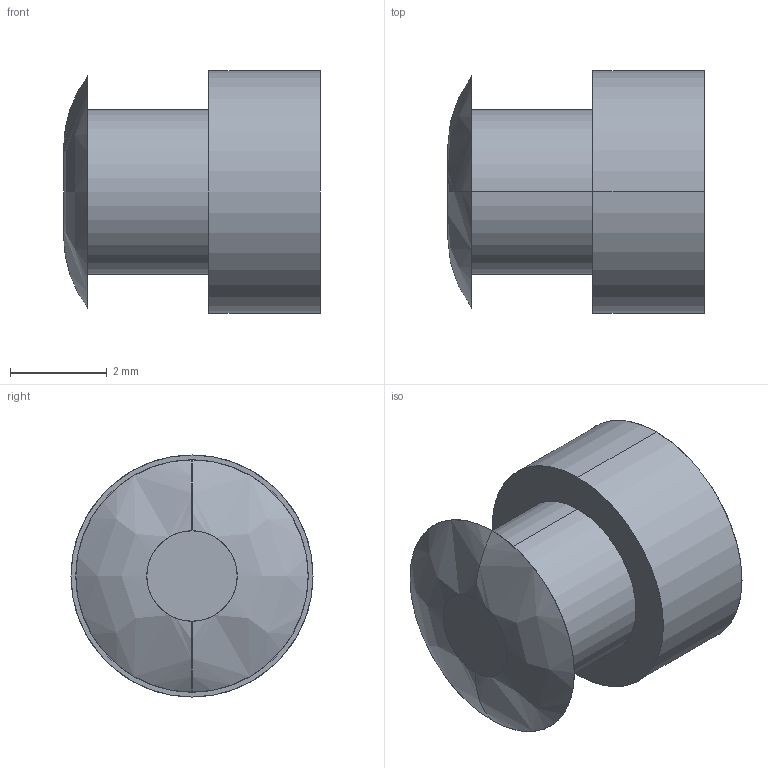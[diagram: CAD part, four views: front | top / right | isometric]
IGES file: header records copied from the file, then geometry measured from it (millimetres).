
Start section: SolidWorks IGES FILE using analytic representation for surfaces
Global section: file name: C:\Documents and Settings\lecoutey\Bureau\GR 62\53.100.10.IGS; native system: SolidWorks 2004 by SolidWorks Corporation; preprocessor: Version 5.3; author: lecoutey; date: 050330.161002; units: millimetre
Bounding box: 5.3 x 5 x 5 mm (x, y, z)
Surface area: 121.6 mm2 (no closed solid volume)
Topology: 0 solids, 0 shells, 10 faces, 216 edges, 216 vertices
Faces by surface type: bspline 6, revolution 4
